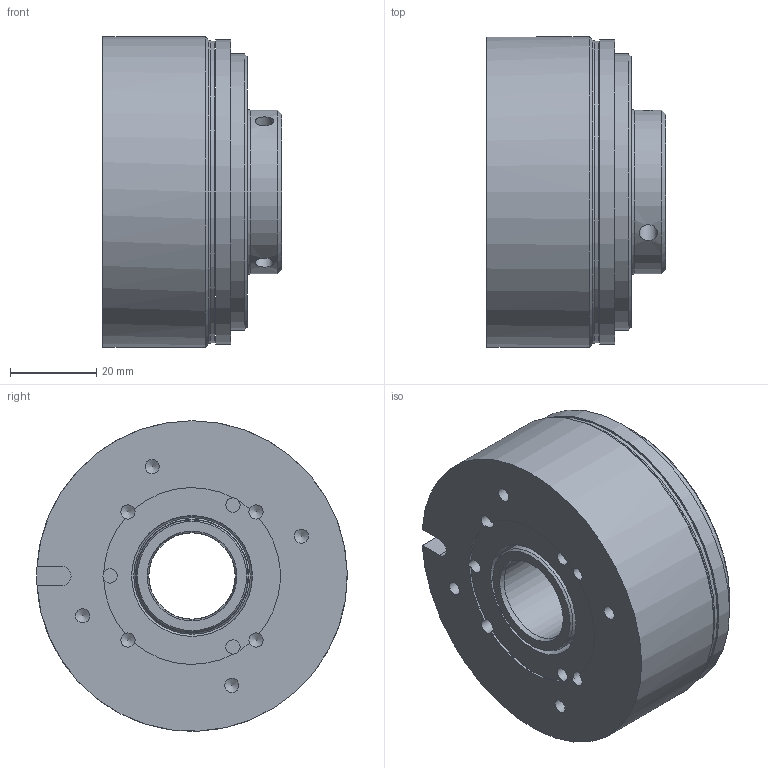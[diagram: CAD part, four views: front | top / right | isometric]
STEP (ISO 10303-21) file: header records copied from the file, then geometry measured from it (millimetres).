
FILE_DESCRIPTION (( 'STEP AP203' ), '1' );
FILE_NAME ('86_61107P00-0012_Idx_h.STEP', '2022-02-15T13:19:54', ( '' ), ( '' ), 'SwSTEP 2.0', 'SolidWorks 2018', '' );
FILE_SCHEMA (( 'CONFIG_CONTROL_DESIGN' ));
Length unit declared in the file: millimetre
Products named in the file (1): 86_61107P00-0012_Idx_h
Bounding box: 41.52 x 72 x 72 mm (x, y, z)
Volume: 121946.6 mm3; surface area: 30441.2 mm2
Topology: 2 solids, 2 shells, 75 faces, 178 edges, 110 vertices
Faces by surface type: cylinder 36, plane 17, cone 16, torus 6
Full cylindrical faces by diameter (mm): 3.3 x11, 4.2 x3, 20 x1, 20.2 x1, 26 x1, 27 x1, 28 x1, 28.5 x1, 29.5 x1, 30 x1, 38 x1, 55.5 x1, 64 x1, 70 x1, 70.5 x1, 72 x1
Entity records: 2181 total; most frequent: CARTESIAN_POINT 606, DIRECTION 342, ORIENTED_EDGE 224, AXIS2_PLACEMENT_3D 160, EDGE_LOOP 138, EDGE_CURVE 112, FACE_OUTER_BOUND 109, VERTEX_POINT 94
